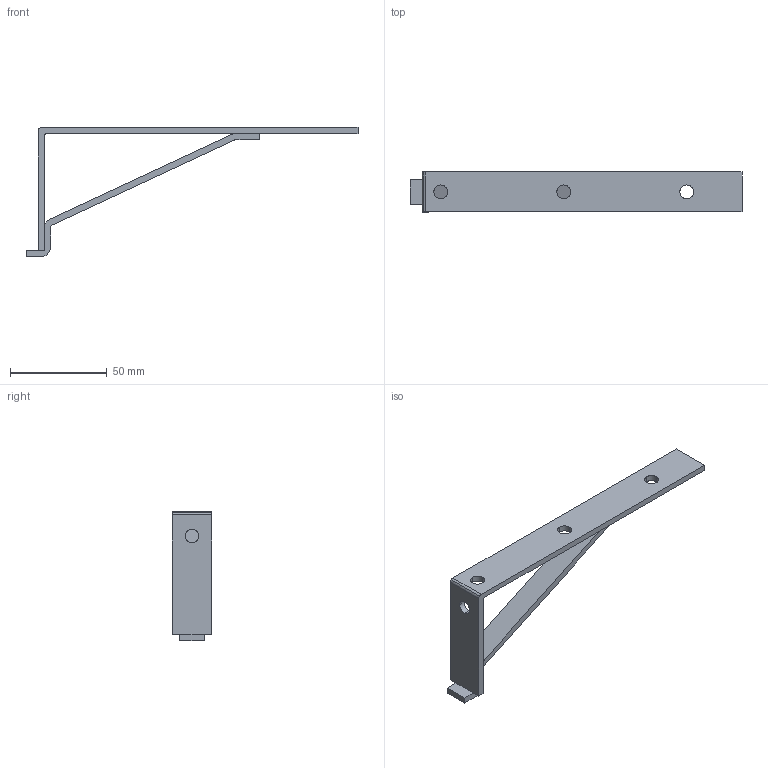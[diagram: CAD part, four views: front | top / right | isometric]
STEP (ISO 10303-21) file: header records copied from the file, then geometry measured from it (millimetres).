
FILE_DESCRIPTION(('TurboCAD Mac Pro'),'Build 980');
FILE_NAME('P6127.stp',' ',(''),(''),'ACIS Interop','IMSI','TurboCAD Mac Pro BY IMSI, INCORPORATED');
FILE_SCHEMA(('automotive_design'));
Length unit declared in the file: inch
Products named in the file (1): 1
Bounding box: 171.45 x 20.64 x 66.68 mm (x, y, z)
Volume: 20062.3 mm3; surface area: 15092.3 mm2
Topology: 1 solids, 1 shells, 44 faces, 124 edges, 82 vertices
Faces by surface type: plane 20, bspline 20, cylinder 4
Entity records: 1921 total; most frequent: CARTESIAN_POINT 515, ORIENTED_EDGE 248, DIRECTION 146, EDGE_CURVE 124, VERTEX_POINT 82, LINE 76, VECTOR 76, EDGE_LOOP 52
